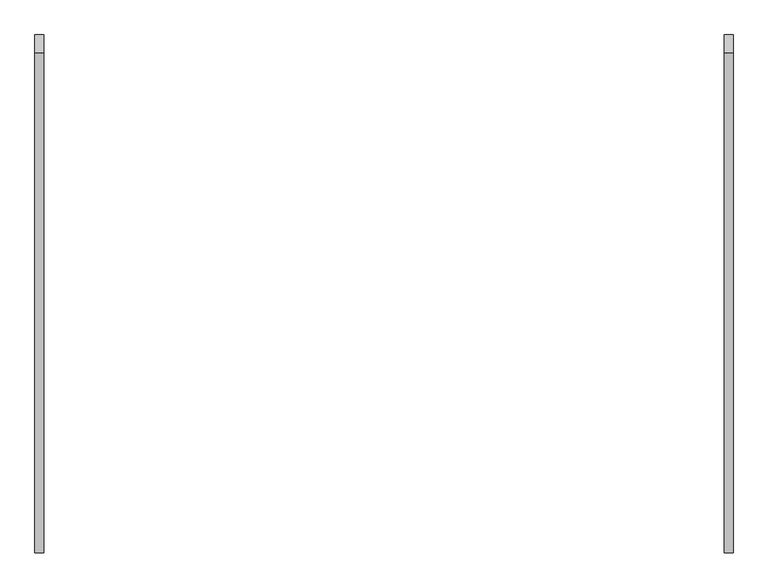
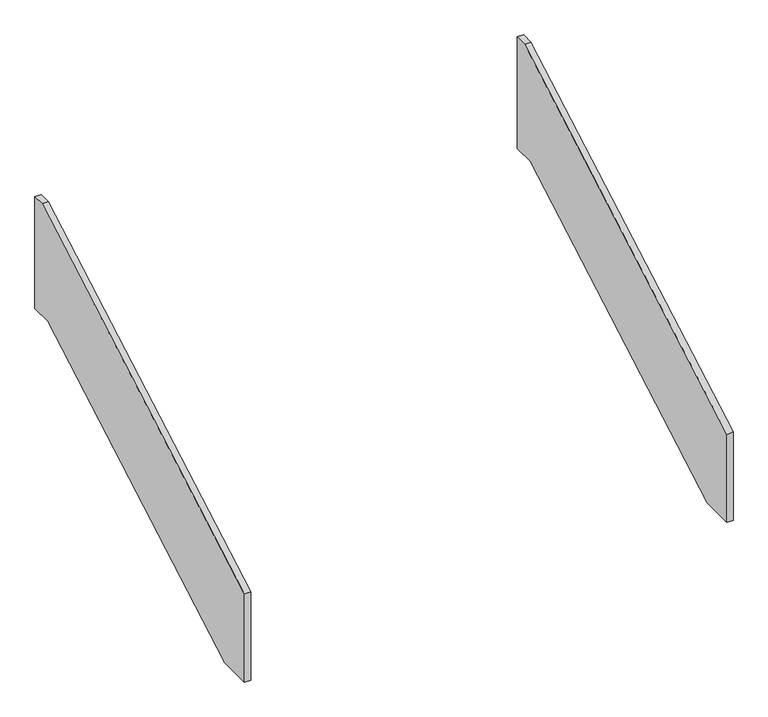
"""IFC4 building model written with IfcOpenShell, lengths in millimetres: beam geometry, limons escalier rdj2 : limons escalier rdj2."""

from ifc_helpers import new_model, si_unit, frame, origin, place, context, project, spatial, polyline, outline, extrude, source, transform, mapped, element, save


def beam_274e84c6(model_context):
    return source(origin(), model_context, "Body", "SweptSolid", [
        extrude(outline(polyline([(1292.0685723, 5270.0), (1292.0685723, 5498.7871608), (2151.6910408, 5990.0), (2182.0685723, 5990.0), (2182.0685723, 5700.0), (2127.9265057, 5700.0), (1375.4265057, 5270.0), (1292.0685723, 5270.0)])), frame((11861.7466393, 0.0, 0.0), z_axis=(1.0, 0.0, 0.0), x_axis=(0.0, 1.0, 0.0)), (0.0, 0.0, 1.0), 15.0009914),
        extrude(outline(polyline([(1292.0685723, 5270.0), (1292.0685723, 5498.7871608), (2151.6910408, 5990.0), (2182.0685723, 5990.0), (2182.0685723, 5700.0), (2127.9265057, 5700.0), (1375.4265057, 5270.0), (1292.0685723, 5270.0)])), frame((10678.2466393, 0.0, 0.0), z_axis=(1.0, 0.0, 0.0), x_axis=(0.0, 1.0, 0.0)), (0.0, 0.0, 1.0), 15.0),
    ])


if __name__ == "__main__":
    model = new_model("IFC4")
    model_context = context("Model", 3, world=origin())
    ifc_project = project(units=[si_unit("LENGTHUNIT", "METRE", prefix="MILLI")], contexts=[model_context])
    site = spatial("IfcSite", under=ifc_project)
    building = spatial("IfcBuilding", under=site)
    placement = place(None, origin())
    beam_shape = beam_274e84c6(model_context)
    element("IfcBeam", 1, ObjectType="limons escalier rdj2 : limons escalier rdj2", at=placement, inside=building, context=model_context, shape_type="MappedRepresentation", body=[
        mapped(beam_shape, transform((0.0, 0.0, 0.0), x_axis=(1.0, 0.0, 0.0), y_axis=(0.0, 1.0, 0.0), z_axis=(0.0, 0.0, 1.0))),
    ])
    save(model, "model.ifc")
